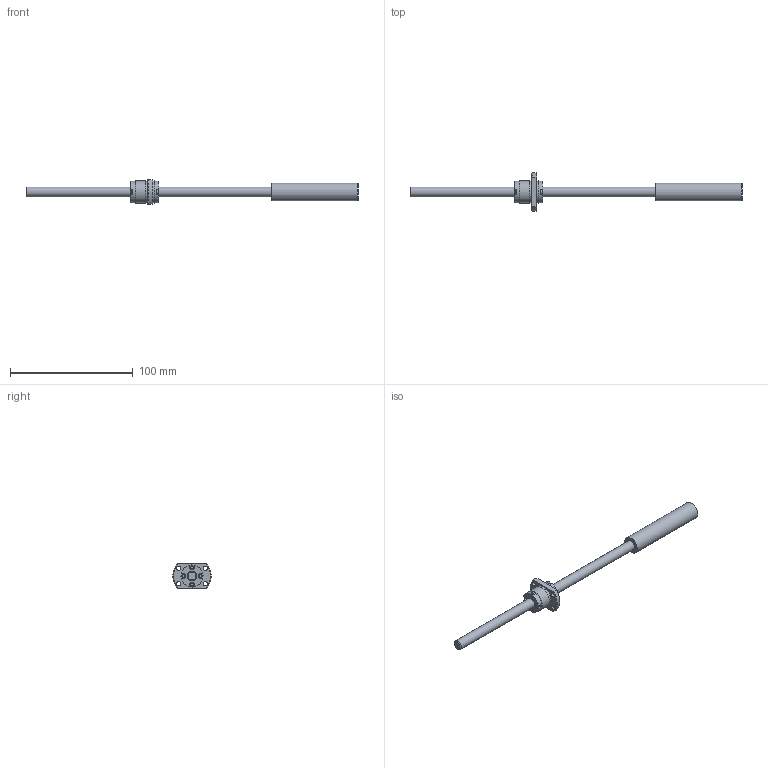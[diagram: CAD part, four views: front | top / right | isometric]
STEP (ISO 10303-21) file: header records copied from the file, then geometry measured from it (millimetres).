
FILE_DESCRIPTION(/* description */ ('STEP AP214'),/* implementation_level */ '2;1');
FILE_NAME(/* name */ 'SRT0820-196R270C7A0X(85None)',/* time_stamp */ '2026-08-04T20:06:43+02:00',/* author */ ('License CC BY-ND 4.0'),/* organization */ ('CADENAS'),/* preprocessor_version */ 'ST-DEVELOPER v20',/* originating_system */ 'PARTsolutions',/* authorisation */ ' ');
FILE_SCHEMA (('AUTOMOTIVE_DESIGN {1 0 10303 214 3 1 1}'));
Length unit declared in the file: millimetre
Products named in the file (3): SRT0820-196R270C7A0X(85None); SRT0820-196R270ACt7None53Shaft; SRT0820Nut
Assembly tree (2 placements, depth 2):
  SRT0820-196R270C7A0X(85None)
    SRT0820-196R270ACt7None53Shaft
    SRT0820Nut
Bounding box: 270 x 30.91 x 20 mm (x, y, z)
Volume: 26714.1 mm3; surface area: 11809.2 mm2
Topology: 2 solids, 2 shells, 138 faces, 332 edges, 220 vertices
Faces by surface type: plane 100, cylinder 30, cone 8
Full cylindrical faces by diameter (mm): 3 x8, 3.4 x4, 8 x2, 14.2 x1, 17.5 x2, 17.7 x1, 18 x2
Entity records: 3971 total; most frequent: CARTESIAN_POINT 689, DIRECTION 662, ORIENTED_EDGE 612, EDGE_CURVE 306, AXIS2_PLACEMENT_3D 223, VERTEX_POINT 218, LINE 216, VECTOR 216
